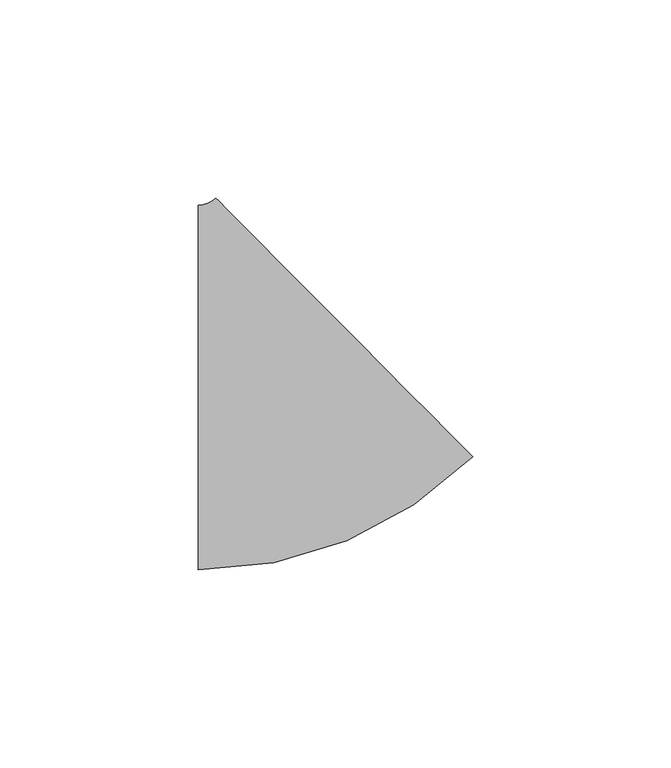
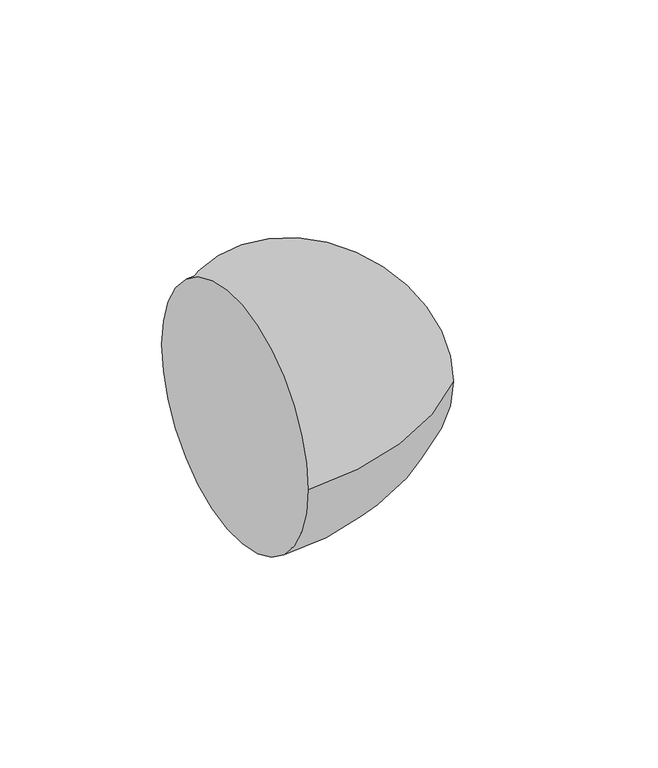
"""IFC4 building model written with IfcOpenShell, lengths in millimetres: pipe fitting geometry, M_Codo - Genérico : Estándar."""

from ifc_helpers import new_model, si_unit, point, frame, origin, place, context, project, spatial, circle_curve, ellipse_curve, trimmed, source, transform, mapped, element, save
from ifc_brep_helpers import plane_surface, revolved_surface, advanced_brep


def pipe_fitting_022dd2a5(model_context):
    return source(origin(), model_context, "Body", "AdvancedBrep", [
        advanced_brep(
        [(-21.5877516, -46.0375, 0.0), (-21.5877516, 46.0375, 0.0), (47.7548893, -17.4629029, 0.0), (-17.1140328, 47.8810224, 0.0)],
        [
            (0, 1, circle_curve(frame((-21.5877516, 0.0, 0.0), z_axis=(-1.0, 0.0, 0.0), x_axis=(0.0, 1.0, 0.0)), 46.0375)),
            (1, 0, circle_curve(frame((-21.5877516, 0.0, 0.0), z_axis=(-1.0, 0.0, 0.0), x_axis=(0.0, 1.0, 0.0)), 46.0375)),
            (2, 3, circle_curve(frame((15.3204282, 15.2090598, 0.0), z_axis=(0.7096815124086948, 0.7045226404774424, 0.0), x_axis=(-0.7045226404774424, 0.7096815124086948, 0.0)), 46.0375)),
            (3, 2, circle_curve(frame((15.3204282, 15.2090598, 0.0), z_axis=(0.7096815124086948, 0.7045226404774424, 0.0), x_axis=(-0.7045226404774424, 0.7096815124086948, 0.0)), 46.0375)),
            (3, 1, circle_curve(frame((-21.5877516, 52.3875, 0.0), z_axis=(0.0, 0.0, -1.0), x_axis=(0.0, -1.0, 0.0)), 6.35)),
            (0, 2, circle_curve(frame((-21.5877516, 52.3875, 0.0), z_axis=(0.0, 0.0, 1.0), x_axis=(0.0, -1.0, 0.0)), 98.425)),
        ],
        [
            plane_surface(frame((-21.5877516, 0.0, 0.0), z_axis=(-1.0, 0.0, 0.0), x_axis=(0.0, 0.0, 1.0))),
            plane_surface(frame((15.3204282, 15.2090598, 0.0), z_axis=(0.7096815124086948, 0.7045226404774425, 0.0), x_axis=(0.0, 0.0, 1.0))),
            revolved_surface(trimmed(ellipse_curve(frame((-21.5877516, 0.0, 0.0), z_axis=(-1.0, 0.0, 0.0), x_axis=(0.0, 1.0, 0.0)), 46.0375, 46.0375), [point((-21.5877516, -46.0375, 0.0))], [point((-21.5877516, 46.0375, 0.0))], True, "CARTESIAN"), (-21.5877516, 52.3875, 0.0), (0.0, 0.0, 1.0)),
            revolved_surface(trimmed(ellipse_curve(frame((-21.5877516, 0.0, 0.0), z_axis=(-1.0, 0.0, 0.0), x_axis=(0.0, 1.0, 0.0)), 46.0375, 46.0375), [point((-21.5877516, 46.0375, 0.0))], [point((-21.5877516, -46.0375, 0.0))], True, "CARTESIAN"), (-21.5877516, 52.3875, 0.0), (0.0, 0.0, 1.0)),
        ],
        [
            (0, [[1, 2]]),
            (1, [[3, 4]]),
            (2, [[5, -1, 6, -4]]),
            (3, [[-6, -2, -5, -3]]),
        ],
    ),
    ])


if __name__ == "__main__":
    model = new_model("IFC4")
    model_context = context("Model", 3, world=origin())
    ifc_project = project(units=[si_unit("LENGTHUNIT", "METRE", prefix="MILLI")], contexts=[model_context])
    site = spatial("IfcSite", under=ifc_project)
    building = spatial("IfcBuilding", under=site)
    placement = place(None, origin())
    pipe_fitting_shape = pipe_fitting_022dd2a5(model_context)
    element("IfcPipeFitting", 1, ObjectType="M_Codo - Genérico : Estándar", at=placement, inside=building, context=model_context, shape_type="MappedRepresentation", body=[
        mapped(pipe_fitting_shape, transform((0.0, 0.0, 0.0), x_axis=(1.0, 0.0, 0.0), y_axis=(0.0, 1.0, 0.0), z_axis=(0.0, 0.0, 1.0))),
    ])
    save(model, "model.ifc")
